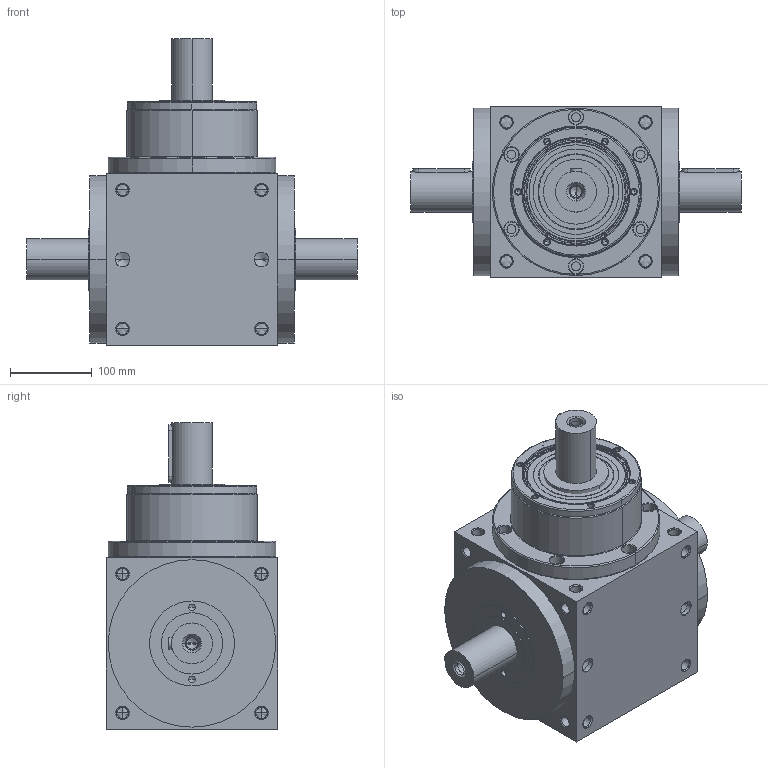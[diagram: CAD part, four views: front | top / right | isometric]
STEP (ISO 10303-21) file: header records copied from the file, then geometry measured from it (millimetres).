
FILE_DESCRIPTION((''),'2;1');
FILE_NAME('AT210L-1_ASM','2008-12-31T',('d00176'),(''),'PRO/ENGINEER BY PARAMETRIC TECHNOLOGY CORPORATION, 2006170','PRO/ENGINEER BY PARAMETRIC TECHNOLOGY CORPORATION, 2006170','');
FILE_SCHEMA(('CONFIG_CONTROL_DESIGN'));
Length unit declared in the file: millimetre
Products named in the file (4): ATL-HOUSING-1-8; P1801800001; 22400071008; AT210L-1_ASM
Assembly tree (3 placements, depth 2):
  AT210L-1_ASM
    ATL-HOUSING-1-8
    P1801800001
    22400071008
Bounding box: 404 x 210 x 375 mm (x, y, z)
Volume: 12255817.1 mm3; surface area: 598515.3 mm2
Topology: 4 solids, 37 shells, 612 faces, 1513 edges, 896 vertices
Faces by surface type: cylinder 284, cone 210, plane 80, torus 38
Entity records: 18345 total; most frequent: CARTESIAN_POINT 3905, DIRECTION 3241, ORIENTED_EDGE 2734, EDGE_CURVE 1433, AXIS2_PLACEMENT_3D 1357, VERTEX_POINT 896, CIRCLE 734, EDGE_LOOP 727
